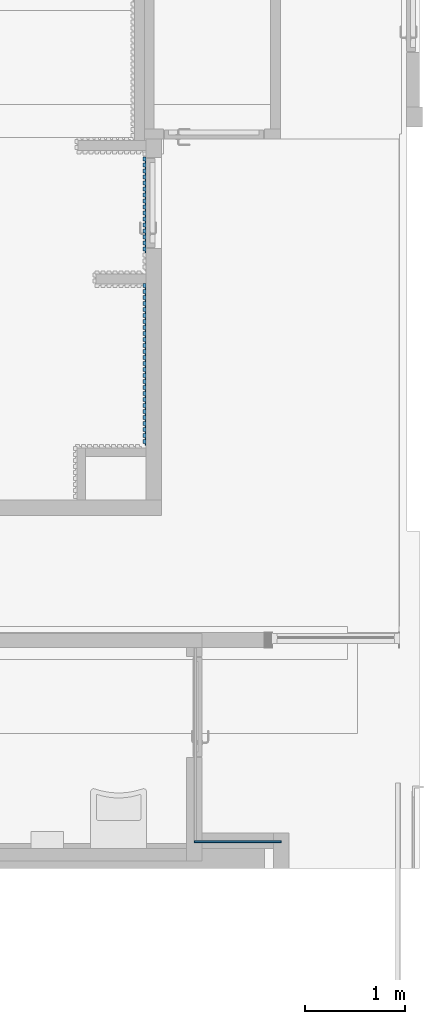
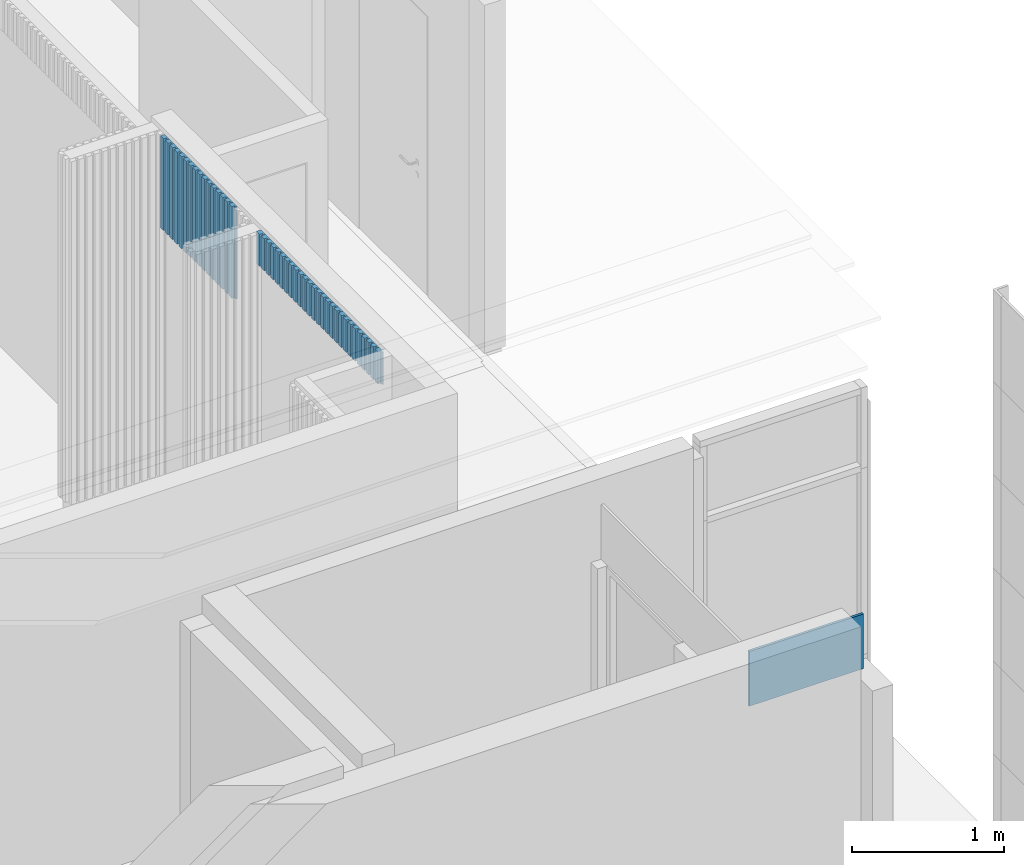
# One storey, part 18 of 37: 44 plates, 3 elements without a shape of their own.
"""IFC2X3 building model written with IfcOpenShell, lengths in millimetres."""

from ifc_helpers import new_model, entity, si_unit, converted_unit, derived_unit, direction, frame, frame_2d, origin, origin_with_axes, origin_2d_with_axis, place, context, subcontext, project, spatial, rectangle, extrude, source, transform, mapped, material, material_list, type_object, element, aggregate, save


model = new_model("IFC2X3")

# Units and contexts
model_context = context("Model", 3, precision=0.01, world=frame((0.0, 4.29681676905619e-09, 0.0)), true_north=direction((4.01073788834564e-13, 1.0)))
plan_context = context("Plan", 3, precision=0.01, world=frame((0.0, 4.29681676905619e-09, 0.0)), true_north=direction((4.01073788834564e-13, 1.0)))
body_context = subcontext(model_context, "Body", "Model", "MODEL_VIEW")
ifc_project = project(units=[converted_unit("PLANEANGLEUNIT", "DEGREE", entity("IfcPositiveLengthMeasure", 0.0174532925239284), si_unit("PLANEANGLEUNIT", "RADIAN"), dimensions=[0, 0, 0, 0, 0, 0, 0]), si_unit("AREAUNIT", "SQUARE_METRE"), si_unit("LENGTHUNIT", "METRE", prefix="MILLI"), si_unit("MASSUNIT", "GRAM", prefix="KILO"), si_unit("POWERUNIT", "WATT"), si_unit("PRESSUREUNIT", "PASCAL"), si_unit("FORCEUNIT", "NEWTON", prefix="KILO"), si_unit("ELECTRICVOLTAGEUNIT", "VOLT"), si_unit("ELECTRICCURRENTUNIT", "AMPERE"), si_unit("THERMODYNAMICTEMPERATUREUNIT", "DEGREE_CELSIUS"), si_unit("TIMEUNIT", "SECOND"), si_unit("VOLUMEUNIT", "CUBIC_METRE"), derived_unit("LINEARVELOCITYUNIT", [(si_unit("LENGTHUNIT", "METRE"), 1), (si_unit("TIMEUNIT", "SECOND"), -1)]), derived_unit("VOLUMETRICFLOWRATEUNIT", [(si_unit("VOLUMEUNIT", "CUBIC_METRE"), 1), (si_unit("TIMEUNIT", "SECOND"), -1)]), derived_unit("THERMALTRANSMITTANCEUNIT", [(si_unit("POWERUNIT", "WATT"), 1), (si_unit("THERMODYNAMICTEMPERATUREUNIT", "KELVIN"), -1), (si_unit("AREAUNIT", "SQUARE_METRE"), -1)]), derived_unit("SOUNDPRESSUREUNIT", [(si_unit("PRESSUREUNIT", "PASCAL"), 1)])], contexts=[model_context, plan_context])

# Site, building, storey
site_placement = place(None, origin_with_axes())
site = spatial("IfcSite", under=ifc_project, at=site_placement, Name="ENGM", CompositionType="ELEMENT")
building_placement = place(site_placement, origin_with_axes())
building = spatial("IfcBuilding", under=site, at=building_placement, Name="TS", CompositionType="ELEMENT")
storey_placement = place(building_placement, frame((0.0, 0.0, 210900.0), z_axis=(0.0, 0.0, 1.0), x_axis=(1.0, 0.0, 0.0)))
storey = spatial("IfcBuildingStorey", under=building, at=storey_placement, Name="Nivå F", CompositionType="ELEMENT", Elevation=210900.0)

# Curtain wall, plate
curtain_wall_type_1 = type_object("IfcCurtainWallType", Name="Curtain Wall:A242 - IGV - Glass - 20mm", PredefinedType="NOTDEFINED")
curtain_wall_1_placement = place(storey_placement, frame((0.0, 0.0, -210900.0), z_axis=(0.0, 0.0, 1.0), x_axis=(1.0, 0.0, 0.0)))
curtain_wall_1 = element("IfcCurtainWall", 1, at=curtain_wall_1_placement, inside=storey, type_object=curtain_wall_type_1, Name="Curtain Wall:A242 - IGV - Glass - 20mm", ObjectType="Curtain Wall:A242 - IGV - Glass - 20mm")
ifc_material_1 = material(Name="Glass(Avinor)")
plate_type_1 = type_object("IfcPlateType", Name="System Panel:A245 - Glass - 20 mm", PredefinedType="CURTAIN_PANEL", material=ifc_material_1)
shared_shape_1 = source(origin(), body_context, "Body", "SweptSolid", [
    extrude(rectangle(XDim=20.0, YDim=869.000000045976, at=origin_2d_with_axis()), frame((0.0, 10.0, 0.0), z_axis=(0.0, 0.0, 1.0), x_axis=(0.0, 1.0, 0.0)), (0.0, 0.0, 1.0), 440.000000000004),
])
plate_1_placement = place(curtain_wall_1_placement, frame((534502.487500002, 441050.999999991, 213150.0), z_axis=(0.0, 0.0, 1.0), x_axis=(-1.0, 0.0, 0.0)))
plate_1 = element("IfcPlate", 2, at=plate_1_placement, type_object=plate_type_1, material=ifc_material_1, Name="System Panel:A245 - Glass - 20 mm", ObjectType="System Panel:A245 - Glass - 20 mm", context=body_context, shape_type="MappedRepresentation", body=[
    mapped(shared_shape_1, transform((0.0, 0.0, 0.0), scale=1.0)),
])
aggregate(curtain_wall_1, [plate_1])

# Curtain wall, plates
curtain_wall_type_2 = type_object("IfcCurtainWallType", PredefinedType="NOTDEFINED")
curtain_wall_2_placement = place(storey_placement, frame((0.0, 0.0, -210900.0), z_axis=(0.0, 0.0, 1.0), x_axis=(1.0, 0.0, 0.0)))
curtain_wall_2 = element("IfcCurtainWall", 3, at=curtain_wall_2_placement, inside=storey, type_object=curtain_wall_type_2)
ifc_material_2 = material(Name="MDF plate svart")
ifc_material_3 = material(Name="Wood")
ifc_material_list = material_list([ifc_material_2, ifc_material_3])
plate_type_2 = type_object("IfcPlateType", Name="Spiler_40 x 20:Spiler_40 x 20", PredefinedType="CURTAIN_PANEL", material=ifc_material_list)
shared_shape_2 = source(origin(), body_context, "Body", "SweptSolid", [
    extrude(rectangle(XDim=60.0, YDim=12.0, at=frame_2d((3.5527136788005e-15, 1.33226762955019e-15), x_axis=(1.0, 0.0))), frame((-10.0, 6.0, 0.0), z_axis=(0.0, 0.0, 1.0), x_axis=(-1.0, 0.0, 0.0)), (0.0, 0.0, 1.0), 260.00000000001),
    extrude(rectangle(XDim=20.0000000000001, YDim=39.9999999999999, at=frame_2d((0.0, 8.88178419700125e-15), x_axis=(1.0, 0.0))), frame((0.0, 22.0, 0.0), z_axis=(0.0, 0.0, 1.0), x_axis=(0.0, 1.0, 0.0)), (0.0, 0.0, 1.0), 260.00000000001),
])
plate_2_placement = place(curtain_wall_2_placement, frame((533582.537499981, 445049.500000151, 213500.0), z_axis=(0.0, 0.0, 1.0), x_axis=(0.0, 1.0, 0.0)))
plate_2 = element("IfcPlate", 4, at=plate_2_placement, type_object=plate_type_2, material=ifc_material_list, Name="Spiler_40 x 20:Spiler_40 x 20", ObjectType="Spiler_40 x 20:Spiler_40 x 20", context=body_context, shape_type="MappedRepresentation", body=[
    mapped(shared_shape_2, transform((0.0, 0.0, 0.0), scale=1.0)),
])
plate_type_3 = type_object("IfcPlateType", Name="Spiler_40 x 20:Spiler_40 x 20", PredefinedType="CURTAIN_PANEL", material=ifc_material_list)
plate_3_placement = place(curtain_wall_2_placement, frame((533582.537499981, 445109.500000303, 213500.0), z_axis=(0.0, 0.0, 1.0), x_axis=(0.0, 1.0, 0.0)))
plate_3 = element("IfcPlate", 5, at=plate_3_placement, type_object=plate_type_3, material=ifc_material_list, Name="Spiler_40 x 20:Spiler_40 x 20", ObjectType="Spiler_40 x 20:Spiler_40 x 20", context=body_context, shape_type="MappedRepresentation", body=[
    mapped(shared_shape_2, transform((0.0, 0.0, 0.0), scale=1.0)),
])
plate_4_placement = place(curtain_wall_2_placement, frame((533582.537499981, 445169.500000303, 213500.0), z_axis=(0.0, 0.0, 1.0), x_axis=(0.0, 1.0, 0.0)))
plate_4 = element("IfcPlate", 6, at=plate_4_placement, type_object=plate_type_3, material=ifc_material_list, Name="Spiler_40 x 20:Spiler_40 x 20", ObjectType="Spiler_40 x 20:Spiler_40 x 20", context=body_context, shape_type="MappedRepresentation", body=[
    mapped(shared_shape_2, transform((0.0, 0.0, 0.0), scale=1.0)),
])
plate_5_placement = place(curtain_wall_2_placement, frame((533582.537499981, 445229.500000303, 213500.0), z_axis=(0.0, 0.0, 1.0), x_axis=(0.0, 1.0, 0.0)))
plate_5 = element("IfcPlate", 7, at=plate_5_placement, type_object=plate_type_3, material=ifc_material_list, Name="Spiler_40 x 20:Spiler_40 x 20", ObjectType="Spiler_40 x 20:Spiler_40 x 20", context=body_context, shape_type="MappedRepresentation", body=[
    mapped(shared_shape_2, transform((0.0, 0.0, 0.0), scale=1.0)),
])
plate_6_placement = place(curtain_wall_2_placement, frame((533582.537499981, 445289.500000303, 213500.0), z_axis=(0.0, 0.0, 1.0), x_axis=(0.0, 1.0, 0.0)))
plate_6 = element("IfcPlate", 8, at=plate_6_placement, type_object=plate_type_3, material=ifc_material_list, Name="Spiler_40 x 20:Spiler_40 x 20", ObjectType="Spiler_40 x 20:Spiler_40 x 20", context=body_context, shape_type="MappedRepresentation", body=[
    mapped(shared_shape_2, transform((0.0, 0.0, 0.0), scale=1.0)),
])
plate_7_placement = place(curtain_wall_2_placement, frame((533582.537499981, 445349.500000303, 213500.0), z_axis=(0.0, 0.0, 1.0), x_axis=(0.0, 1.0, 0.0)))
plate_7 = element("IfcPlate", 9, at=plate_7_placement, type_object=plate_type_3, material=ifc_material_list, Name="Spiler_40 x 20:Spiler_40 x 20", ObjectType="Spiler_40 x 20:Spiler_40 x 20", context=body_context, shape_type="MappedRepresentation", body=[
    mapped(shared_shape_2, transform((0.0, 0.0, 0.0), scale=1.0)),
])
plate_8_placement = place(curtain_wall_2_placement, frame((533582.537499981, 445409.500000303, 213500.0), z_axis=(0.0, 0.0, 1.0), x_axis=(0.0, 1.0, 0.0)))
plate_8 = element("IfcPlate", 10, at=plate_8_placement, type_object=plate_type_3, material=ifc_material_list, Name="Spiler_40 x 20:Spiler_40 x 20", ObjectType="Spiler_40 x 20:Spiler_40 x 20", context=body_context, shape_type="MappedRepresentation", body=[
    mapped(shared_shape_2, transform((0.0, 0.0, 0.0), scale=1.0)),
])
plate_9_placement = place(curtain_wall_2_placement, frame((533582.537499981, 445469.500000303, 213500.0), z_axis=(0.0, 0.0, 1.0), x_axis=(0.0, 1.0, 0.0)))
plate_9 = element("IfcPlate", 11, at=plate_9_placement, type_object=plate_type_3, material=ifc_material_list, Name="Spiler_40 x 20:Spiler_40 x 20", ObjectType="Spiler_40 x 20:Spiler_40 x 20", context=body_context, shape_type="MappedRepresentation", body=[
    mapped(shared_shape_2, transform((0.0, 0.0, 0.0), scale=1.0)),
])
plate_10_placement = place(curtain_wall_2_placement, frame((533582.537499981, 445529.500000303, 213500.0), z_axis=(0.0, 0.0, 1.0), x_axis=(0.0, 1.0, 0.0)))
plate_10 = element("IfcPlate", 12, at=plate_10_placement, type_object=plate_type_3, material=ifc_material_list, Name="Spiler_40 x 20:Spiler_40 x 20", ObjectType="Spiler_40 x 20:Spiler_40 x 20", context=body_context, shape_type="MappedRepresentation", body=[
    mapped(shared_shape_2, transform((0.0, 0.0, 0.0), scale=1.0)),
])
plate_11_placement = place(curtain_wall_2_placement, frame((533582.537499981, 445589.500000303, 213500.0), z_axis=(0.0, 0.0, 1.0), x_axis=(0.0, 1.0, 0.0)))
plate_11 = element("IfcPlate", 13, at=plate_11_placement, type_object=plate_type_3, material=ifc_material_list, Name="Spiler_40 x 20:Spiler_40 x 20", ObjectType="Spiler_40 x 20:Spiler_40 x 20", context=body_context, shape_type="MappedRepresentation", body=[
    mapped(shared_shape_2, transform((0.0, 0.0, 0.0), scale=1.0)),
])
plate_12_placement = place(curtain_wall_2_placement, frame((533582.537499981, 445649.500000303, 213500.0), z_axis=(0.0, 0.0, 1.0), x_axis=(0.0, 1.0, 0.0)))
plate_12 = element("IfcPlate", 14, at=plate_12_placement, type_object=plate_type_3, material=ifc_material_list, Name="Spiler_40 x 20:Spiler_40 x 20", ObjectType="Spiler_40 x 20:Spiler_40 x 20", context=body_context, shape_type="MappedRepresentation", body=[
    mapped(shared_shape_2, transform((0.0, 0.0, 0.0), scale=1.0)),
])
plate_13_placement = place(curtain_wall_2_placement, frame((533582.537499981, 445709.500000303, 213500.0), z_axis=(0.0, 0.0, 1.0), x_axis=(0.0, 1.0, 0.0)))
plate_13 = element("IfcPlate", 15, at=plate_13_placement, type_object=plate_type_3, material=ifc_material_list, Name="Spiler_40 x 20:Spiler_40 x 20", ObjectType="Spiler_40 x 20:Spiler_40 x 20", context=body_context, shape_type="MappedRepresentation", body=[
    mapped(shared_shape_2, transform((0.0, 0.0, 0.0), scale=1.0)),
])
plate_14_placement = place(curtain_wall_2_placement, frame((533582.537499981, 445769.500000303, 213500.0), z_axis=(0.0, 0.0, 1.0), x_axis=(0.0, 1.0, 0.0)))
plate_14 = element("IfcPlate", 16, at=plate_14_placement, type_object=plate_type_3, material=ifc_material_list, Name="Spiler_40 x 20:Spiler_40 x 20", ObjectType="Spiler_40 x 20:Spiler_40 x 20", context=body_context, shape_type="MappedRepresentation", body=[
    mapped(shared_shape_2, transform((0.0, 0.0, 0.0), scale=1.0)),
])
plate_15_placement = place(curtain_wall_2_placement, frame((533582.537499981, 445829.500000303, 213500.0), z_axis=(0.0, 0.0, 1.0), x_axis=(0.0, 1.0, 0.0)))
plate_15 = element("IfcPlate", 17, at=plate_15_placement, type_object=plate_type_3, material=ifc_material_list, Name="Spiler_40 x 20:Spiler_40 x 20", ObjectType="Spiler_40 x 20:Spiler_40 x 20", context=body_context, shape_type="MappedRepresentation", body=[
    mapped(shared_shape_2, transform((0.0, 0.0, 0.0), scale=1.0)),
])
plate_16_placement = place(curtain_wall_2_placement, frame((533582.537499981, 445889.500000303, 213500.0), z_axis=(0.0, 0.0, 1.0), x_axis=(0.0, 1.0, 0.0)))
plate_16 = element("IfcPlate", 18, at=plate_16_placement, type_object=plate_type_3, material=ifc_material_list, Name="Spiler_40 x 20:Spiler_40 x 20", ObjectType="Spiler_40 x 20:Spiler_40 x 20", context=body_context, shape_type="MappedRepresentation", body=[
    mapped(shared_shape_2, transform((0.0, 0.0, 0.0), scale=1.0)),
])
plate_17_placement = place(curtain_wall_2_placement, frame((533582.537499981, 445949.500000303, 213500.0), z_axis=(0.0, 0.0, 1.0), x_axis=(0.0, 1.0, 0.0)))
plate_17 = element("IfcPlate", 19, at=plate_17_placement, type_object=plate_type_3, material=ifc_material_list, Name="Spiler_40 x 20:Spiler_40 x 20", ObjectType="Spiler_40 x 20:Spiler_40 x 20", context=body_context, shape_type="MappedRepresentation", body=[
    mapped(shared_shape_2, transform((0.0, 0.0, 0.0), scale=1.0)),
])
plate_18_placement = place(curtain_wall_2_placement, frame((533582.537499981, 446009.500000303, 213500.0), z_axis=(0.0, 0.0, 1.0), x_axis=(0.0, 1.0, 0.0)))
plate_18 = element("IfcPlate", 20, at=plate_18_placement, type_object=plate_type_3, material=ifc_material_list, Name="Spiler_40 x 20:Spiler_40 x 20", ObjectType="Spiler_40 x 20:Spiler_40 x 20", context=body_context, shape_type="MappedRepresentation", body=[
    mapped(shared_shape_2, transform((0.0, 0.0, 0.0), scale=1.0)),
])
plate_19_placement = place(curtain_wall_2_placement, frame((533582.537499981, 446069.500000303, 213500.0), z_axis=(0.0, 0.0, 1.0), x_axis=(0.0, 1.0, 0.0)))
plate_19 = element("IfcPlate", 21, at=plate_19_placement, type_object=plate_type_3, material=ifc_material_list, Name="Spiler_40 x 20:Spiler_40 x 20", ObjectType="Spiler_40 x 20:Spiler_40 x 20", context=body_context, shape_type="MappedRepresentation", body=[
    mapped(shared_shape_2, transform((0.0, 0.0, 0.0), scale=1.0)),
])
plate_20_placement = place(curtain_wall_2_placement, frame((533582.537499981, 446129.500000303, 213500.0), z_axis=(0.0, 0.0, 1.0), x_axis=(0.0, 1.0, 0.0)))
plate_20 = element("IfcPlate", 22, at=plate_20_placement, type_object=plate_type_3, material=ifc_material_list, Name="Spiler_40 x 20:Spiler_40 x 20", ObjectType="Spiler_40 x 20:Spiler_40 x 20", context=body_context, shape_type="MappedRepresentation", body=[
    mapped(shared_shape_2, transform((0.0, 0.0, 0.0), scale=1.0)),
])
plate_21_placement = place(curtain_wall_2_placement, frame((533582.537499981, 446189.500000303, 213500.0), z_axis=(0.0, 0.0, 1.0), x_axis=(0.0, 1.0, 0.0)))
plate_21 = element("IfcPlate", 23, at=plate_21_placement, type_object=plate_type_3, material=ifc_material_list, Name="Spiler_40 x 20:Spiler_40 x 20", ObjectType="Spiler_40 x 20:Spiler_40 x 20", context=body_context, shape_type="MappedRepresentation", body=[
    mapped(shared_shape_2, transform((0.0, 0.0, 0.0), scale=1.0)),
])
plate_22_placement = place(curtain_wall_2_placement, frame((533582.537499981, 446249.500000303, 213500.0), z_axis=(0.0, 0.0, 1.0), x_axis=(0.0, 1.0, 0.0)))
plate_22 = element("IfcPlate", 24, at=plate_22_placement, type_object=plate_type_3, material=ifc_material_list, Name="Spiler_40 x 20:Spiler_40 x 20", ObjectType="Spiler_40 x 20:Spiler_40 x 20", context=body_context, shape_type="MappedRepresentation", body=[
    mapped(shared_shape_2, transform((0.0, 0.0, 0.0), scale=1.0)),
])
plate_23_placement = place(curtain_wall_2_placement, frame((533582.537499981, 446309.500000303, 213500.0), z_axis=(0.0, 0.0, 1.0), x_axis=(0.0, 1.0, 0.0)))
plate_23 = element("IfcPlate", 25, at=plate_23_placement, type_object=plate_type_3, material=ifc_material_list, Name="Spiler_40 x 20:Spiler_40 x 20", ObjectType="Spiler_40 x 20:Spiler_40 x 20", context=body_context, shape_type="MappedRepresentation", body=[
    mapped(shared_shape_2, transform((0.0, 0.0, 0.0), scale=1.0)),
])
plate_24_placement = place(curtain_wall_2_placement, frame((533582.537499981, 446369.500000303, 213500.0), z_axis=(0.0, 0.0, 1.0), x_axis=(0.0, 1.0, 0.0)))
plate_24 = element("IfcPlate", 26, at=plate_24_placement, type_object=plate_type_3, material=ifc_material_list, Name="Spiler_40 x 20:Spiler_40 x 20", ObjectType="Spiler_40 x 20:Spiler_40 x 20", context=body_context, shape_type="MappedRepresentation", body=[
    mapped(shared_shape_2, transform((0.0, 0.0, 0.0), scale=1.0)),
])
plate_25_placement = place(curtain_wall_2_placement, frame((533582.537499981, 446429.500000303, 213500.0), z_axis=(0.0, 0.0, 1.0), x_axis=(0.0, 1.0, 0.0)))
plate_25 = element("IfcPlate", 27, at=plate_25_placement, type_object=plate_type_3, material=ifc_material_list, Name="Spiler_40 x 20:Spiler_40 x 20", ObjectType="Spiler_40 x 20:Spiler_40 x 20", context=body_context, shape_type="MappedRepresentation", body=[
    mapped(shared_shape_2, transform((0.0, 0.0, 0.0), scale=1.0)),
])
plate_26_placement = place(curtain_wall_2_placement, frame((533582.537499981, 446489.500000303, 213500.0), z_axis=(0.0, 0.0, 1.0), x_axis=(0.0, 1.0, 0.0)))
plate_26 = element("IfcPlate", 28, at=plate_26_placement, type_object=plate_type_3, material=ifc_material_list, Name="Spiler_40 x 20:Spiler_40 x 20", ObjectType="Spiler_40 x 20:Spiler_40 x 20", context=body_context, shape_type="MappedRepresentation", body=[
    mapped(shared_shape_2, transform((0.0, 0.0, 0.0), scale=1.0)),
])
plate_27_placement = place(curtain_wall_2_placement, frame((533582.537499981, 446549.500000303, 213500.0), z_axis=(0.0, 0.0, 1.0), x_axis=(0.0, 1.0, 0.0)))
plate_27 = element("IfcPlate", 29, at=plate_27_placement, type_object=plate_type_3, material=ifc_material_list, Name="Spiler_40 x 20:Spiler_40 x 20", ObjectType="Spiler_40 x 20:Spiler_40 x 20", context=body_context, shape_type="MappedRepresentation", body=[
    mapped(shared_shape_2, transform((0.0, 0.0, 0.0), scale=1.0)),
])
plate_type_4 = type_object("IfcPlateType", Name="Spiler_40 x 20:Spiler_40 x 20", PredefinedType="CURTAIN_PANEL", material=ifc_material_list)
plate_28_placement = place(curtain_wall_2_placement, frame((533582.537499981, 446609.500000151, 213500.0), z_axis=(0.0, 0.0, 1.0), x_axis=(0.0, 1.0, 0.0)))
plate_28 = element("IfcPlate", 30, at=plate_28_placement, type_object=plate_type_4, material=ifc_material_list, Name="Spiler_40 x 20:Spiler_40 x 20", ObjectType="Spiler_40 x 20:Spiler_40 x 20", context=body_context, shape_type="MappedRepresentation", body=[
    mapped(shared_shape_2, transform((0.0, 0.0, 0.0), scale=1.0)),
])
aggregate(curtain_wall_2, [plate_2, plate_3, plate_4, plate_5, plate_6, plate_7, plate_8, plate_9, plate_10, plate_11, plate_12, plate_13, plate_14, plate_15, plate_16, plate_17, plate_18, plate_19, plate_20, plate_21, plate_22, plate_23, plate_24, plate_25, plate_26, plate_27, plate_28])

curtain_wall_3_placement = place(storey_placement, frame((0.0, 0.0, -210900.0), z_axis=(0.0, 0.0, 1.0), x_axis=(1.0, 0.0, 0.0)))
curtain_wall_3 = element("IfcCurtainWall", 31, at=curtain_wall_3_placement, inside=storey, type_object=curtain_wall_type_2)
plate_type_5 = type_object("IfcPlateType", Name="Spiler_40 x 20:Spiler_40 x 20", PredefinedType="CURTAIN_PANEL", material=ifc_material_list)
shared_shape_3 = source(origin(), body_context, "Body", "SweptSolid", [
    extrude(rectangle(XDim=60.0, YDim=12.0, at=frame_2d((3.5527136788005e-15, 1.33226762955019e-15), x_axis=(1.0, 0.0))), frame((-10.0, 6.0, 0.0), z_axis=(0.0, 0.0, 1.0), x_axis=(-1.0, 0.0, 0.0)), (0.0, 0.0, 1.0), 740.00000000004),
    extrude(rectangle(XDim=20.0000000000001, YDim=39.9999999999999, at=frame_2d((0.0, 8.88178419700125e-15), x_axis=(1.0, 0.0))), frame((0.0, 22.0, 0.0), z_axis=(0.0, 0.0, 1.0), x_axis=(0.0, 1.0, 0.0)), (0.0, 0.0, 1.0), 740.00000000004),
])
plate_29_placement = place(curtain_wall_3_placement, frame((533582.537499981, 446976.500000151, 213020.0), z_axis=(0.0, 0.0, 1.0), x_axis=(0.0, 1.0, 0.0)))
plate_29 = element("IfcPlate", 32, at=plate_29_placement, type_object=plate_type_5, material=ifc_material_list, Name="Spiler_40 x 20:Spiler_40 x 20", ObjectType="Spiler_40 x 20:Spiler_40 x 20", context=body_context, shape_type="MappedRepresentation", body=[
    mapped(shared_shape_3, transform((0.0, 0.0, 0.0), scale=1.0)),
])
plate_30_placement = place(curtain_wall_3_placement, frame((533582.537499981, 447036.500000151, 213020.0), z_axis=(0.0, 0.0, 1.0), x_axis=(0.0, 1.0, 0.0)))
plate_30 = element("IfcPlate", 33, at=plate_30_placement, type_object=plate_type_5, material=ifc_material_list, Name="Spiler_40 x 20:Spiler_40 x 20", ObjectType="Spiler_40 x 20:Spiler_40 x 20", context=body_context, shape_type="MappedRepresentation", body=[
    mapped(shared_shape_3, transform((0.0, 0.0, 0.0), scale=1.0)),
])
plate_31_placement = place(curtain_wall_3_placement, frame((533582.537499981, 447096.500000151, 213020.0), z_axis=(0.0, 0.0, 1.0), x_axis=(0.0, 1.0, 0.0)))
plate_31 = element("IfcPlate", 34, at=plate_31_placement, type_object=plate_type_5, material=ifc_material_list, Name="Spiler_40 x 20:Spiler_40 x 20", ObjectType="Spiler_40 x 20:Spiler_40 x 20", context=body_context, shape_type="MappedRepresentation", body=[
    mapped(shared_shape_3, transform((0.0, 0.0, 0.0), scale=1.0)),
])
plate_32_placement = place(curtain_wall_3_placement, frame((533582.537499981, 447156.50000015, 213020.0), z_axis=(0.0, 0.0, 1.0), x_axis=(0.0, 1.0, 0.0)))
plate_32 = element("IfcPlate", 35, at=plate_32_placement, type_object=plate_type_5, material=ifc_material_list, Name="Spiler_40 x 20:Spiler_40 x 20", ObjectType="Spiler_40 x 20:Spiler_40 x 20", context=body_context, shape_type="MappedRepresentation", body=[
    mapped(shared_shape_3, transform((0.0, 0.0, 0.0), scale=1.0)),
])
plate_33_placement = place(curtain_wall_3_placement, frame((533582.537499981, 447216.500000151, 213020.0), z_axis=(0.0, 0.0, 1.0), x_axis=(0.0, 1.0, 0.0)))
plate_33 = element("IfcPlate", 36, at=plate_33_placement, type_object=plate_type_5, material=ifc_material_list, Name="Spiler_40 x 20:Spiler_40 x 20", ObjectType="Spiler_40 x 20:Spiler_40 x 20", context=body_context, shape_type="MappedRepresentation", body=[
    mapped(shared_shape_3, transform((0.0, 0.0, 0.0), scale=1.0)),
])
plate_34_placement = place(curtain_wall_3_placement, frame((533582.537499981, 447276.500000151, 213020.0), z_axis=(0.0, 0.0, 1.0), x_axis=(0.0, 1.0, 0.0)))
plate_34 = element("IfcPlate", 37, at=plate_34_placement, type_object=plate_type_5, material=ifc_material_list, Name="Spiler_40 x 20:Spiler_40 x 20", ObjectType="Spiler_40 x 20:Spiler_40 x 20", context=body_context, shape_type="MappedRepresentation", body=[
    mapped(shared_shape_3, transform((0.0, 0.0, 0.0), scale=1.0)),
])
plate_35_placement = place(curtain_wall_3_placement, frame((533582.537499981, 447336.500000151, 213020.0), z_axis=(0.0, 0.0, 1.0), x_axis=(0.0, 1.0, 0.0)))
plate_35 = element("IfcPlate", 38, at=plate_35_placement, type_object=plate_type_5, material=ifc_material_list, Name="Spiler_40 x 20:Spiler_40 x 20", ObjectType="Spiler_40 x 20:Spiler_40 x 20", context=body_context, shape_type="MappedRepresentation", body=[
    mapped(shared_shape_3, transform((0.0, 0.0, 0.0), scale=1.0)),
])
plate_36_placement = place(curtain_wall_3_placement, frame((533582.537499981, 447396.500000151, 213020.0), z_axis=(0.0, 0.0, 1.0), x_axis=(0.0, 1.0, 0.0)))
plate_36 = element("IfcPlate", 39, at=plate_36_placement, type_object=plate_type_5, material=ifc_material_list, Name="Spiler_40 x 20:Spiler_40 x 20", ObjectType="Spiler_40 x 20:Spiler_40 x 20", context=body_context, shape_type="MappedRepresentation", body=[
    mapped(shared_shape_3, transform((0.0, 0.0, 0.0), scale=1.0)),
])
plate_37_placement = place(curtain_wall_3_placement, frame((533582.537499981, 447456.50000015, 213020.0), z_axis=(0.0, 0.0, 1.0), x_axis=(0.0, 1.0, 0.0)))
plate_37 = element("IfcPlate", 40, at=plate_37_placement, type_object=plate_type_5, material=ifc_material_list, Name="Spiler_40 x 20:Spiler_40 x 20", ObjectType="Spiler_40 x 20:Spiler_40 x 20", context=body_context, shape_type="MappedRepresentation", body=[
    mapped(shared_shape_3, transform((0.0, 0.0, 0.0), scale=1.0)),
])
plate_38_placement = place(curtain_wall_3_placement, frame((533582.537499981, 447516.500000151, 213020.0), z_axis=(0.0, 0.0, 1.0), x_axis=(0.0, 1.0, 0.0)))
plate_38 = element("IfcPlate", 41, at=plate_38_placement, type_object=plate_type_5, material=ifc_material_list, Name="Spiler_40 x 20:Spiler_40 x 20", ObjectType="Spiler_40 x 20:Spiler_40 x 20", context=body_context, shape_type="MappedRepresentation", body=[
    mapped(shared_shape_3, transform((0.0, 0.0, 0.0), scale=1.0)),
])
plate_39_placement = place(curtain_wall_3_placement, frame((533582.537499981, 447576.500000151, 213020.0), z_axis=(0.0, 0.0, 1.0), x_axis=(0.0, 1.0, 0.0)))
plate_39 = element("IfcPlate", 42, at=plate_39_placement, type_object=plate_type_5, material=ifc_material_list, Name="Spiler_40 x 20:Spiler_40 x 20", ObjectType="Spiler_40 x 20:Spiler_40 x 20", context=body_context, shape_type="MappedRepresentation", body=[
    mapped(shared_shape_3, transform((0.0, 0.0, 0.0), scale=1.0)),
])
plate_40_placement = place(curtain_wall_3_placement, frame((533582.537499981, 447636.500000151, 213020.0), z_axis=(0.0, 0.0, 1.0), x_axis=(0.0, 1.0, 0.0)))
plate_40 = element("IfcPlate", 43, at=plate_40_placement, type_object=plate_type_5, material=ifc_material_list, Name="Spiler_40 x 20:Spiler_40 x 20", ObjectType="Spiler_40 x 20:Spiler_40 x 20", context=body_context, shape_type="MappedRepresentation", body=[
    mapped(shared_shape_3, transform((0.0, 0.0, 0.0), scale=1.0)),
])
plate_41_placement = place(curtain_wall_3_placement, frame((533582.537499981, 447696.500000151, 213020.0), z_axis=(0.0, 0.0, 1.0), x_axis=(0.0, 1.0, 0.0)))
plate_41 = element("IfcPlate", 44, at=plate_41_placement, type_object=plate_type_5, material=ifc_material_list, Name="Spiler_40 x 20:Spiler_40 x 20", ObjectType="Spiler_40 x 20:Spiler_40 x 20", context=body_context, shape_type="MappedRepresentation", body=[
    mapped(shared_shape_3, transform((0.0, 0.0, 0.0), scale=1.0)),
])
plate_42_placement = place(curtain_wall_3_placement, frame((533582.537499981, 447756.50000015, 213020.0), z_axis=(0.0, 0.0, 1.0), x_axis=(0.0, 1.0, 0.0)))
plate_42 = element("IfcPlate", 45, at=plate_42_placement, type_object=plate_type_5, material=ifc_material_list, Name="Spiler_40 x 20:Spiler_40 x 20", ObjectType="Spiler_40 x 20:Spiler_40 x 20", context=body_context, shape_type="MappedRepresentation", body=[
    mapped(shared_shape_3, transform((0.0, 0.0, 0.0), scale=1.0)),
])
plate_43_placement = place(curtain_wall_3_placement, frame((533582.537499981, 447816.500000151, 213020.0), z_axis=(0.0, 0.0, 1.0), x_axis=(0.0, 1.0, 0.0)))
plate_43 = element("IfcPlate", 46, at=plate_43_placement, type_object=plate_type_5, material=ifc_material_list, Name="Spiler_40 x 20:Spiler_40 x 20", ObjectType="Spiler_40 x 20:Spiler_40 x 20", context=body_context, shape_type="MappedRepresentation", body=[
    mapped(shared_shape_3, transform((0.0, 0.0, 0.0), scale=1.0)),
])
plate_44_placement = place(curtain_wall_3_placement, frame((533582.537499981, 447876.500000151, 213020.0), z_axis=(0.0, 0.0, 1.0), x_axis=(0.0, 1.0, 0.0)))
plate_44 = element("IfcPlate", 47, at=plate_44_placement, type_object=plate_type_5, material=ifc_material_list, Name="Spiler_40 x 20:Spiler_40 x 20", ObjectType="Spiler_40 x 20:Spiler_40 x 20", context=body_context, shape_type="MappedRepresentation", body=[
    mapped(shared_shape_3, transform((0.0, 0.0, 0.0), scale=1.0)),
])
aggregate(curtain_wall_3, [plate_29, plate_30, plate_31, plate_32, plate_33, plate_34, plate_35, plate_36, plate_37, plate_38, plate_39, plate_40, plate_41, plate_42, plate_43, plate_44])

save(model, "model.ifc")
